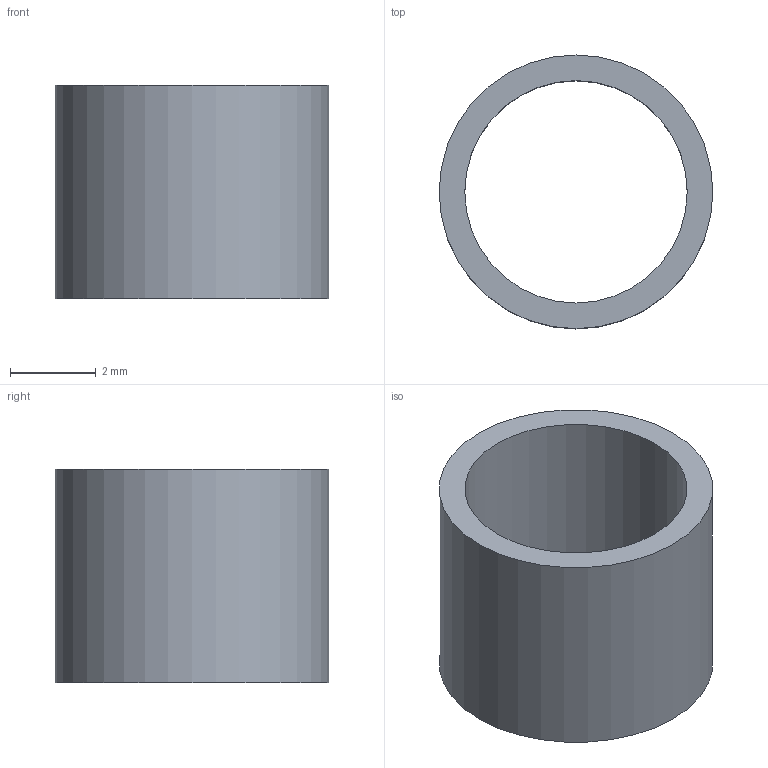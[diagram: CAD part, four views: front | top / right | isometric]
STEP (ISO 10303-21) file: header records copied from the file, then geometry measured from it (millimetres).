
FILE_DESCRIPTION(('Open CASCADE Model'),'2;1');
FILE_NAME('S08-yaw_middle_inner_spacer.step', '', ('Noah Wilson'), (''), '', '', '');
FILE_SCHEMA(('AUTOMOTIVE_DESIGN { 1 0 10303 214 1 1 1 1 }'));
Length unit declared in the file: millimetre
Products named in the file (2): =>[0:1:1:2]; COMPOUND
Assembly tree (1 placements, depth 2):
  =>[0:1:1:2]
    COMPOUND
Bounding box: 6.4 x 6.4 x 5 mm (x, y, z)
Volume: 54.7 mm3; surface area: 204.1 mm2
Topology: 1 solids, 1 shells, 4 faces, 6 edges, 4 vertices
Faces by surface type: cylinder 2, plane 2
Full cylindrical faces by diameter (mm): 5.2 x1, 6.4 x1
Entity records: 204 total; most frequent: DIRECTION 34, CARTESIAN_POINT 28, ORIENTED_EDGE 12, PCURVE 12, DEFINITIONAL_REPRESENTATION 12, AXIS2_PLACEMENT_3D 10, LINE 10, VECTOR 10
